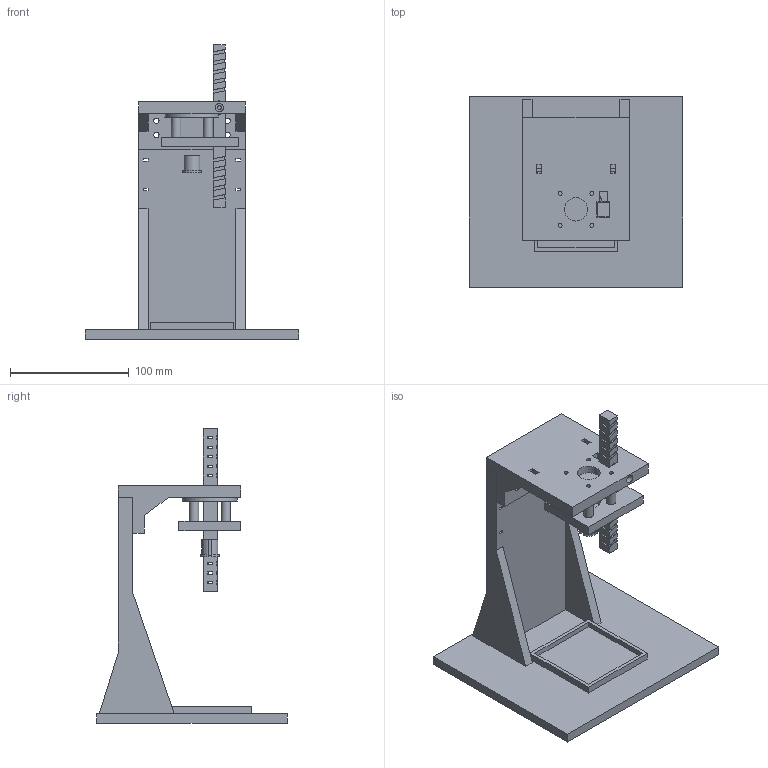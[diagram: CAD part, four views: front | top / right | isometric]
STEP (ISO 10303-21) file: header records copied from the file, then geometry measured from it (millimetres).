
FILE_DESCRIPTION(('Open CASCADE Model'),'2;1');
FILE_NAME('Open CASCADE Shape Model','2026-11-12T20:35:42',('Author'),( 'Open CASCADE'),'Open CASCADE STEP processor 7.9','Open CASCADE 7.9' ,'Unknown');
FILE_SCHEMA(('AUTOMOTIVE_DESIGN { 1 0 10303 214 1 1 1 1 }'));
Length unit declared in the file: millimetre
Products named in the file (6): five_printed_bodies; 01_frame_base_upright_tray; 02_head_common_rod_guide; 03_cassette_common_rod_guide; 04_D68_payload_carrier; 05_common_direct_insert_rod
Assembly tree (5 placements, depth 2):
  five_printed_bodies
    01_frame_base_upright_tray
    02_head_common_rod_guide
    03_cassette_common_rod_guide
    04_D68_payload_carrier
    05_common_direct_insert_rod
Bounding box: 180 x 160 x 248 mm (x, y, z)
Volume: 632206.5 mm3; surface area: 165520.4 mm2
Topology: 5 solids, 5 shells, 392 faces, 1086 edges, 701 vertices
Faces by surface type: plane 359, cylinder 33
Full cylindrical faces by diameter (mm): 3.4 x9, 4.5 x8, 7 x1, 8 x4, 10 x1, 19.6 x2, 26 x1
Entity records: 26498 total; most frequent: CARTESIAN_POINT 4591, DIRECTION 3939, LINE 2926, VECTOR 2926, ORIENTED_EDGE 2172, PCURVE 2172, DEFINITIONAL_REPRESENTATION 2172, EDGE_CURVE 1086
